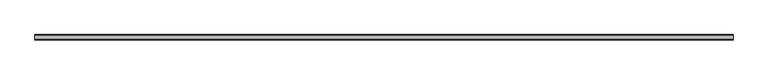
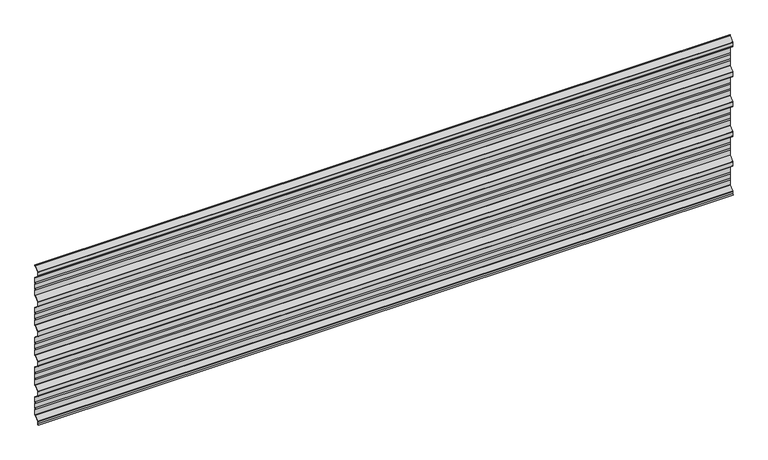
"""IFC4 building model written with IfcOpenShell, lengths in millimetres: plate geometry, HIANSA - H20.F09.003-CHAPA PERFILADA FACHADA HORIZONTAL - MT32F - Panel de Muro Cortina : -."""

from ifc_helpers import new_model, si_unit, point, frame, frame_2d, origin, place, context, project, spatial, polyline, circle_curve, trimmed, segment, composite_curve, outline, extrude, source, transform, mapped, element, save


def plate_4608f2e8(model_context):
    return source(origin(), model_context, "Body", "SweptSolid", [
        extrude(outline(composite_curve([segment(trimmed(circle_curve(frame_2d((-28.9, 13.5441549)), 2.6), [point((-30.5163104, 15.580706))], [point((-31.5, 13.5441549))], True, "CARTESIAN"), True, "CONTINUOUS"), segment(polyline([(-31.5, 13.5441549), (-31.5, -0.0841656), (-33.248321, -8.3011514), (-34.0662289, -8.3011514), (-32.3, 0.0), (-32.3, 13.5441549)]), True, "CONTINUOUS"), segment(trimmed(circle_curve(frame_2d((-28.9, 13.5441549)), 3.4), [point((-32.3, 13.5441549))], [point((-31.0136367, 16.2073371))], False, "CARTESIAN"), True, "CONTINUOUS"), segment(polyline([(-31.0136367, 16.2073371), (-1.7836896, 39.4057079)]), True, "CONTINUOUS"), segment(trimmed(circle_curve(frame_2d((-3.4, 41.442259)), 2.6), [point((-1.7836896, 39.4057079))], [point((-0.8, 41.442259))], True, "CARTESIAN"), True, "CONTINUOUS"), segment(polyline([(-0.8, 41.442259), (-0.8, 73.9336996)]), True, "CONTINUOUS"), segment(trimmed(circle_curve(frame_2d((17.1, 80.0)), 18.9), [point((-0.8, 73.9336996))], [point((-0.8, 86.0663004))], False, "CARTESIAN"), True, "CONTINUOUS"), segment(polyline([(-0.8, 86.0663004), (-0.8, 113.9336996)]), True, "CONTINUOUS"), segment(trimmed(circle_curve(frame_2d((17.1, 120.0)), 18.9), [point((-0.8, 113.9336996))], [point((-0.8, 126.0663004))], False, "CARTESIAN"), True, "CONTINUOUS"), segment(polyline([(-0.8, 126.0663004), (-0.8, 158.557741)]), True, "CONTINUOUS"), segment(trimmed(circle_curve(frame_2d((-3.4, 158.557741)), 2.6), [point((-0.8, 158.557741))], [point((-1.7836896, 160.5942921))], True, "CARTESIAN"), True, "CONTINUOUS"), segment(polyline([(-1.7836896, 160.5942921), (-31.0136367, 183.7926629)]), True, "CONTINUOUS"), segment(trimmed(circle_curve(frame_2d((-28.9, 186.4558451)), 3.4), [point((-31.0136367, 183.7926629))], [point((-32.3, 186.4558451))], False, "CARTESIAN"), True, "CONTINUOUS"), segment(polyline([(-32.3, 186.4558451), (-32.3, 213.5441549)]), True, "CONTINUOUS"), segment(trimmed(circle_curve(frame_2d((-28.9, 213.5441549)), 3.4), [point((-32.3, 213.5441549))], [point((-31.0136367, 216.2073371))], False, "CARTESIAN"), True, "CONTINUOUS"), segment(polyline([(-31.0136367, 216.2073371), (-1.7836896, 239.4057079)]), True, "CONTINUOUS"), segment(trimmed(circle_curve(frame_2d((-3.4, 241.442259)), 2.6), [point((-1.7836896, 239.4057079))], [point((-0.8, 241.442259))], True, "CARTESIAN"), True, "CONTINUOUS"), segment(polyline([(-0.8, 241.442259), (-0.8, 273.9336996)]), True, "CONTINUOUS"), segment(trimmed(circle_curve(frame_2d((17.1, 280.0)), 18.9), [point((-0.8, 273.9336996))], [point((-0.8, 286.0663004))], False, "CARTESIAN"), True, "CONTINUOUS"), segment(polyline([(-0.8, 286.0663004), (-0.8, 313.9336996)]), True, "CONTINUOUS"), segment(trimmed(circle_curve(frame_2d((17.1, 320.0)), 18.9), [point((-0.8, 313.9336996))], [point((-0.8, 326.0663004))], False, "CARTESIAN"), True, "CONTINUOUS"), segment(polyline([(-0.8, 326.0663004), (-0.8, 358.557741)]), True, "CONTINUOUS"), segment(trimmed(circle_curve(frame_2d((-3.4, 358.557741)), 2.6), [point((-0.8, 358.557741))], [point((-1.7836896, 360.5942921))], True, "CARTESIAN"), True, "CONTINUOUS"), segment(polyline([(-1.7836896, 360.5942921), (-31.0136367, 383.7926629)]), True, "CONTINUOUS"), segment(trimmed(circle_curve(frame_2d((-28.9, 386.4558451)), 3.4), [point((-31.0136367, 383.7926629))], [point((-32.3, 386.4558451))], False, "CARTESIAN"), True, "CONTINUOUS"), segment(polyline([(-32.3, 386.4558451), (-32.3, 413.5441549)]), True, "CONTINUOUS"), segment(trimmed(circle_curve(frame_2d((-28.9, 413.5441549)), 3.4), [point((-32.3, 413.5441549))], [point((-31.0136367, 416.2073371))], False, "CARTESIAN"), True, "CONTINUOUS"), segment(polyline([(-31.0136367, 416.2073371), (-1.7836896, 439.4057079)]), True, "CONTINUOUS"), segment(trimmed(circle_curve(frame_2d((-3.4, 441.442259)), 2.6), [point((-1.7836896, 439.4057079))], [point((-0.8, 441.442259))], True, "CARTESIAN"), True, "CONTINUOUS"), segment(polyline([(-0.8, 441.442259), (-0.8, 473.9336996)]), True, "CONTINUOUS"), segment(trimmed(circle_curve(frame_2d((17.1, 480.0)), 18.9), [point((-0.8, 473.9336996))], [point((-0.8, 486.0663004))], False, "CARTESIAN"), True, "CONTINUOUS"), segment(polyline([(-0.8, 486.0663004), (-0.8, 513.9336996)]), True, "CONTINUOUS"), segment(trimmed(circle_curve(frame_2d((17.1, 520.0)), 18.9), [point((-0.8, 513.9336996))], [point((-0.8, 526.0663004))], False, "CARTESIAN"), True, "CONTINUOUS"), segment(polyline([(-0.8, 526.0663004), (-0.8, 558.557741)]), True, "CONTINUOUS"), segment(trimmed(circle_curve(frame_2d((-3.4, 558.557741)), 2.6), [point((-0.8, 558.557741))], [point((-1.7836896, 560.5942921))], True, "CARTESIAN"), True, "CONTINUOUS"), segment(polyline([(-1.7836896, 560.5942921), (-31.0136367, 583.7926629)]), True, "CONTINUOUS"), segment(trimmed(circle_curve(frame_2d((-28.9, 586.4558451)), 3.4), [point((-31.0136367, 583.7926629))], [point((-32.3, 586.4558451))], False, "CARTESIAN"), True, "CONTINUOUS"), segment(polyline([(-32.3, 586.4558451), (-32.3, 613.5441549)]), True, "CONTINUOUS"), segment(trimmed(circle_curve(frame_2d((-28.9, 613.5441549)), 3.4), [point((-32.3, 613.5441549))], [point((-31.0136367, 616.2073371))], False, "CARTESIAN"), True, "CONTINUOUS"), segment(polyline([(-31.0136367, 616.2073371), (-1.7836896, 639.4057079)]), True, "CONTINUOUS"), segment(trimmed(circle_curve(frame_2d((-3.4, 641.442259)), 2.6), [point((-1.7836896, 639.4057079))], [point((-0.8, 641.442259))], True, "CARTESIAN"), True, "CONTINUOUS"), segment(polyline([(-0.8, 641.442259), (-0.8, 673.9336996)]), True, "CONTINUOUS"), segment(trimmed(circle_curve(frame_2d((17.1, 680.0)), 18.9), [point((-0.8, 673.9336996))], [point((-0.8, 686.0663004))], False, "CARTESIAN"), True, "CONTINUOUS"), segment(polyline([(-0.8, 686.0663004), (-0.8, 713.9336996)]), True, "CONTINUOUS"), segment(trimmed(circle_curve(frame_2d((17.1, 720.0)), 18.9), [point((-0.8, 713.9336996))], [point((-0.8, 726.0663004))], False, "CARTESIAN"), True, "CONTINUOUS"), segment(polyline([(-0.8, 726.0663004), (-0.8, 758.557741)]), True, "CONTINUOUS"), segment(trimmed(circle_curve(frame_2d((-3.4, 758.557741)), 2.6), [point((-0.8, 758.557741))], [point((-1.7836896, 760.5942921))], True, "CARTESIAN"), True, "CONTINUOUS"), segment(polyline([(-1.7836896, 760.5942921), (-31.0136367, 783.7926629)]), True, "CONTINUOUS"), segment(trimmed(circle_curve(frame_2d((-28.9, 786.4558451)), 3.4), [point((-31.0136367, 783.7926629))], [point((-32.3, 786.4558451))], False, "CARTESIAN"), True, "CONTINUOUS"), segment(polyline([(-32.3, 786.4558451), (-32.3, 813.5441549)]), True, "CONTINUOUS"), segment(trimmed(circle_curve(frame_2d((-28.9, 813.5441549)), 3.4), [point((-32.3, 813.5441549))], [point((-31.0136367, 816.2073371))], False, "CARTESIAN"), True, "CONTINUOUS"), segment(polyline([(-31.0136367, 816.2073371), (-1.7836896, 839.4057079)]), True, "CONTINUOUS"), segment(trimmed(circle_curve(frame_2d((-3.4, 841.442259)), 2.6), [point((-1.7836896, 839.4057079))], [point((-0.8, 841.442259))], True, "CARTESIAN"), True, "CONTINUOUS"), segment(polyline([(-0.8, 841.442259), (-0.8, 873.9336996)]), True, "CONTINUOUS"), segment(trimmed(circle_curve(frame_2d((17.1, 880.0)), 18.9), [point((-0.8, 873.9336996))], [point((-0.8, 886.0663004))], False, "CARTESIAN"), True, "CONTINUOUS"), segment(polyline([(-0.8, 886.0663004), (-0.8, 913.9336996)]), True, "CONTINUOUS"), segment(trimmed(circle_curve(frame_2d((17.1, 920.0)), 18.9), [point((-0.8, 913.9336996))], [point((-0.8, 926.0663004))], False, "CARTESIAN"), True, "CONTINUOUS"), segment(polyline([(-0.8, 926.0663004), (-0.8, 958.557741)]), True, "CONTINUOUS"), segment(trimmed(circle_curve(frame_2d((-3.4, 958.557741)), 2.6), [point((-0.8, 958.557741))], [point((-1.7836896, 960.5942921))], True, "CARTESIAN"), True, "CONTINUOUS"), segment(polyline([(-1.7836896, 960.5942921), (-29.3, 982.4326337), (-29.3, 988.4326337), (-32.3, 990.8326337), (-32.3, 1013.5441549)]), True, "CONTINUOUS"), segment(trimmed(circle_curve(frame_2d((-28.9, 1013.5441549)), 3.4), [point((-32.3, 1013.5441549))], [point((-31.0136367, 1016.2073371))], False, "CARTESIAN"), True, "CONTINUOUS"), segment(polyline([(-31.0136367, 1016.2073371), (-1.7836896, 1039.4057079)]), True, "CONTINUOUS"), segment(trimmed(circle_curve(frame_2d((-3.4, 1041.442259)), 2.6), [point((-1.7836896, 1039.4057079))], [point((-0.8, 1041.442259))], True, "CARTESIAN"), True, "CONTINUOUS"), segment(polyline([(-0.8, 1041.442259), (-0.8, 1045.0), (0.0, 1045.0), (0.0, 1041.442259)]), True, "CONTINUOUS"), segment(trimmed(circle_curve(frame_2d((-3.4, 1041.442259)), 3.4), [point((0.0, 1041.442259))], [point((-1.2863633, 1038.7790768))], False, "CARTESIAN"), True, "CONTINUOUS"), segment(polyline([(-1.2863633, 1038.7790768), (-30.5163104, 1015.580706)]), True, "CONTINUOUS"), segment(trimmed(circle_curve(frame_2d((-28.9, 1013.5441549)), 2.6), [point((-30.5163104, 1015.580706))], [point((-31.5, 1013.5441549))], True, "CARTESIAN"), True, "CONTINUOUS"), segment(polyline([(-31.5, 1013.5441549), (-31.5, 991.2171336), (-28.5, 988.8171336), (-28.5, 982.8190476), (-1.2863633, 961.2209232)]), True, "CONTINUOUS"), segment(trimmed(circle_curve(frame_2d((-3.4, 958.557741)), 3.4), [point((-1.2863633, 961.2209232))], [point((0.0, 958.557741))], False, "CARTESIAN"), True, "CONTINUOUS"), segment(polyline([(0.0, 958.557741), (0.0, 925.9329588)]), True, "CONTINUOUS"), segment(trimmed(circle_curve(frame_2d((17.1, 920.0)), 18.1), [point((0.0, 925.9329588))], [point((0.0, 914.0670412))], True, "CARTESIAN"), True, "CONTINUOUS"), segment(polyline([(0.0, 914.0670412), (0.0, 885.9329588)]), True, "CONTINUOUS"), segment(trimmed(circle_curve(frame_2d((17.1, 880.0)), 18.1), [point((0.0, 885.9329588))], [point((0.0, 874.0670412))], True, "CARTESIAN"), True, "CONTINUOUS"), segment(polyline([(0.0, 874.0670412), (0.0, 841.442259)]), True, "CONTINUOUS"), segment(trimmed(circle_curve(frame_2d((-3.4, 841.442259)), 3.4), [point((0.0, 841.442259))], [point((-1.2863633, 838.7790768))], False, "CARTESIAN"), True, "CONTINUOUS"), segment(polyline([(-1.2863633, 838.7790768), (-30.5163104, 815.580706)]), True, "CONTINUOUS"), segment(trimmed(circle_curve(frame_2d((-28.9, 813.5441549)), 2.6), [point((-30.5163104, 815.580706))], [point((-31.5, 813.5441549))], True, "CARTESIAN"), True, "CONTINUOUS"), segment(polyline([(-31.5, 813.5441549), (-31.5, 786.4558451)]), True, "CONTINUOUS"), segment(trimmed(circle_curve(frame_2d((-28.9, 786.4558451)), 2.6), [point((-31.5, 786.4558451))], [point((-30.5163104, 784.419294))], True, "CARTESIAN"), True, "CONTINUOUS"), segment(polyline([(-30.5163104, 784.419294), (-1.2863633, 761.2209232)]), True, "CONTINUOUS"), segment(trimmed(circle_curve(frame_2d((-3.4, 758.557741)), 3.4), [point((-1.2863633, 761.2209232))], [point((0.0, 758.557741))], False, "CARTESIAN"), True, "CONTINUOUS"), segment(polyline([(0.0, 758.557741), (0.0, 725.9329588)]), True, "CONTINUOUS"), segment(trimmed(circle_curve(frame_2d((17.1, 720.0)), 18.1), [point((0.0, 725.9329588))], [point((0.0, 714.0670412))], True, "CARTESIAN"), True, "CONTINUOUS"), segment(polyline([(0.0, 714.0670412), (0.0, 685.9329588)]), True, "CONTINUOUS"), segment(trimmed(circle_curve(frame_2d((17.1, 680.0)), 18.1), [point((0.0, 685.9329588))], [point((0.0, 674.0670412))], True, "CARTESIAN"), True, "CONTINUOUS"), segment(polyline([(0.0, 674.0670412), (0.0, 641.442259)]), True, "CONTINUOUS"), segment(trimmed(circle_curve(frame_2d((-3.4, 641.442259)), 3.4), [point((0.0, 641.442259))], [point((-1.2863633, 638.7790768))], False, "CARTESIAN"), True, "CONTINUOUS"), segment(polyline([(-1.2863633, 638.7790768), (-30.5163104, 615.580706)]), True, "CONTINUOUS"), segment(trimmed(circle_curve(frame_2d((-28.9, 613.5441549)), 2.6), [point((-30.5163104, 615.580706))], [point((-31.5, 613.5441549))], True, "CARTESIAN"), True, "CONTINUOUS"), segment(polyline([(-31.5, 613.5441549), (-31.5, 586.4558451)]), True, "CONTINUOUS"), segment(trimmed(circle_curve(frame_2d((-28.9, 586.4558451)), 2.6), [point((-31.5, 586.4558451))], [point((-30.5163104, 584.419294))], True, "CARTESIAN"), True, "CONTINUOUS"), segment(polyline([(-30.5163104, 584.419294), (-1.2863633, 561.2209232)]), True, "CONTINUOUS"), segment(trimmed(circle_curve(frame_2d((-3.4, 558.557741)), 3.4), [point((-1.2863633, 561.2209232))], [point((0.0, 558.557741))], False, "CARTESIAN"), True, "CONTINUOUS"), segment(polyline([(0.0, 558.557741), (0.0, 525.9329588)]), True, "CONTINUOUS"), segment(trimmed(circle_curve(frame_2d((17.1, 520.0)), 18.1), [point((0.0, 525.9329588))], [point((0.0, 514.0670412))], True, "CARTESIAN"), True, "CONTINUOUS"), segment(polyline([(0.0, 514.0670412), (0.0, 485.9329588)]), True, "CONTINUOUS"), segment(trimmed(circle_curve(frame_2d((17.1, 480.0)), 18.1), [point((0.0, 485.9329588))], [point((0.0, 474.0670412))], True, "CARTESIAN"), True, "CONTINUOUS"), segment(polyline([(0.0, 474.0670412), (0.0, 441.442259)]), True, "CONTINUOUS"), segment(trimmed(circle_curve(frame_2d((-3.4, 441.442259)), 3.4), [point((0.0, 441.442259))], [point((-1.2863633, 438.7790768))], False, "CARTESIAN"), True, "CONTINUOUS"), segment(polyline([(-1.2863633, 438.7790768), (-30.5163104, 415.580706)]), True, "CONTINUOUS"), segment(trimmed(circle_curve(frame_2d((-28.9, 413.5441549)), 2.6), [point((-30.5163104, 415.580706))], [point((-31.5, 413.5441549))], True, "CARTESIAN"), True, "CONTINUOUS"), segment(polyline([(-31.5, 413.5441549), (-31.5, 386.4558451)]), True, "CONTINUOUS"), segment(trimmed(circle_curve(frame_2d((-28.9, 386.4558451)), 2.6), [point((-31.5, 386.4558451))], [point((-30.5163104, 384.419294))], True, "CARTESIAN"), True, "CONTINUOUS"), segment(polyline([(-30.5163104, 384.419294), (-1.2863633, 361.2209232)]), True, "CONTINUOUS"), segment(trimmed(circle_curve(frame_2d((-3.4, 358.557741)), 3.4), [point((-1.2863633, 361.2209232))], [point((0.0, 358.557741))], False, "CARTESIAN"), True, "CONTINUOUS"), segment(polyline([(0.0, 358.557741), (0.0, 325.9329588)]), True, "CONTINUOUS"), segment(trimmed(circle_curve(frame_2d((17.1, 320.0)), 18.1), [point((0.0, 325.9329588))], [point((0.0, 314.0670412))], True, "CARTESIAN"), True, "CONTINUOUS"), segment(polyline([(0.0, 314.0670412), (0.0, 285.9329588)]), True, "CONTINUOUS"), segment(trimmed(circle_curve(frame_2d((17.1, 280.0)), 18.1), [point((0.0, 285.9329588))], [point((0.0, 274.0670412))], True, "CARTESIAN"), True, "CONTINUOUS"), segment(polyline([(0.0, 274.0670412), (0.0, 241.442259)]), True, "CONTINUOUS"), segment(trimmed(circle_curve(frame_2d((-3.4, 241.442259)), 3.4), [point((0.0, 241.442259))], [point((-1.2863633, 238.7790768))], False, "CARTESIAN"), True, "CONTINUOUS"), segment(polyline([(-1.2863633, 238.7790768), (-30.5163104, 215.580706)]), True, "CONTINUOUS"), segment(trimmed(circle_curve(frame_2d((-28.9, 213.5441549)), 2.6), [point((-30.5163104, 215.580706))], [point((-31.5, 213.5441549))], True, "CARTESIAN"), True, "CONTINUOUS"), segment(polyline([(-31.5, 213.5441549), (-31.5, 186.4558451)]), True, "CONTINUOUS"), segment(trimmed(circle_curve(frame_2d((-28.9, 186.4558451)), 2.6), [point((-31.5, 186.4558451))], [point((-30.5163104, 184.419294))], True, "CARTESIAN"), True, "CONTINUOUS"), segment(polyline([(-30.5163104, 184.419294), (-1.2863633, 161.2209232)]), True, "CONTINUOUS"), segment(trimmed(circle_curve(frame_2d((-3.4, 158.557741)), 3.4), [point((-1.2863633, 161.2209232))], [point((0.0, 158.557741))], False, "CARTESIAN"), True, "CONTINUOUS"), segment(polyline([(0.0, 158.557741), (0.0, 125.9329588)]), True, "CONTINUOUS"), segment(trimmed(circle_curve(frame_2d((17.1, 120.0)), 18.1), [point((0.0, 125.9329588))], [point((0.0, 114.0670412))], True, "CARTESIAN"), True, "CONTINUOUS"), segment(polyline([(0.0, 114.0670412), (0.0, 85.9329588)]), True, "CONTINUOUS"), segment(trimmed(circle_curve(frame_2d((17.1, 80.0)), 18.1), [point((0.0, 85.9329588))], [point((0.0, 74.0670412))], True, "CARTESIAN"), True, "CONTINUOUS"), segment(polyline([(0.0, 74.0670412), (0.0, 41.442259)]), True, "CONTINUOUS"), segment(trimmed(circle_curve(frame_2d((-3.4, 41.442259)), 3.4), [point((0.0, 41.442259))], [point((-1.2863633, 38.7790768))], False, "CARTESIAN"), True, "CONTINUOUS"), segment(polyline([(-1.2863633, 38.7790768), (-30.5163104, 15.580706)]), True, "CONTINUOUS")], self_intersect=False)), frame((-2200.0, 0.0, 0.0), z_axis=(1.0, 0.0, 0.0), x_axis=(0.0, 1.0, 0.0)), (0.0, 0.0, 1.0), 4400.0),
    ])


if __name__ == "__main__":
    model = new_model("IFC4")
    model_context = context("Model", 3, world=origin())
    ifc_project = project(units=[si_unit("LENGTHUNIT", "METRE", prefix="MILLI")], contexts=[model_context])
    site = spatial("IfcSite", under=ifc_project)
    building = spatial("IfcBuilding", under=site)
    placement = place(None, origin())
    plate_shape = plate_4608f2e8(model_context)
    element("IfcPlate", 1, ObjectType="HIANSA - H20.F09.003-CHAPA PERFILADA FACHADA HORIZONTAL - MT32F - Panel de Muro Cortina : -", at=placement, inside=building, context=model_context, shape_type="MappedRepresentation", body=[
        mapped(plate_shape, transform((0.0, 0.0, 0.0), x_axis=(1.0, 0.0, 0.0), y_axis=(0.0, 1.0, 0.0), z_axis=(0.0, 0.0, 1.0))),
    ])
    save(model, "model.ifc")
